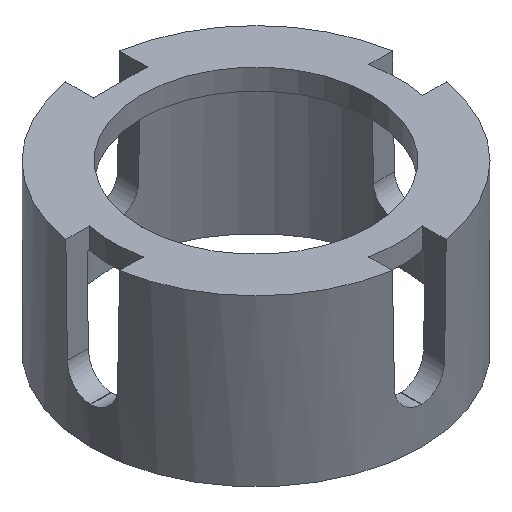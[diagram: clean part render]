
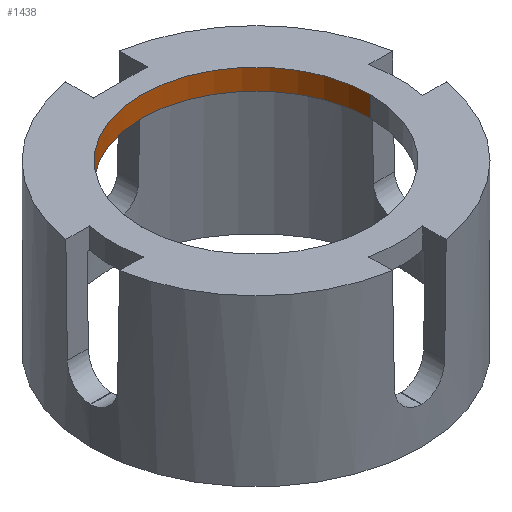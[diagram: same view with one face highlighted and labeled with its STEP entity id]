
A CAD part, isometric view. The second image highlights one B-rep face of the part: STEP entity #1438.
In plain terms, the highlighted cylindrical face has radius 13.85 mm (diameter 27.7 mm), a partial arc.
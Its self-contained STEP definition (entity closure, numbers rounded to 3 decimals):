
#13 = CARTESIAN_POINT ( 'NONE',  ( 13.85, 0., 0. ) ) ;
#101 = EDGE_LOOP ( 'NONE', ( #724, #1099, #424, #1149 ) ) ;
#134 = CARTESIAN_POINT ( 'NONE',  ( 13.85, 0., 2.5 ) ) ;
#155 = EDGE_CURVE ( 'NONE', #426, #623, #190, .T. ) ;
#190 = CIRCLE ( 'NONE', #710, 13.85 ) ;
#246 = VERTEX_POINT ( 'NONE', #534 ) ;
#393 = DIRECTION ( 'NONE',  ( 0., 0., -1. ) ) ;
#403 = VECTOR ( 'NONE', #1270, 1000. ) ;
#415 = CARTESIAN_POINT ( 'NONE',  ( -13.85, 0., 2.5 ) ) ;
#424 = ORIENTED_EDGE ( 'NONE', *, *, #518, .T. ) ;
#426 = VERTEX_POINT ( 'NONE', #559 ) ;
#457 = CIRCLE ( 'NONE', #848, 13.85 ) ;
#476 = CARTESIAN_POINT ( 'NONE',  ( 0., 0., 0. ) ) ;
#510 = DIRECTION ( 'NONE',  ( -1., 0., 0. ) ) ;
#518 = EDGE_CURVE ( 'NONE', #426, #246, #1536, .T. ) ;
#534 = CARTESIAN_POINT ( 'NONE',  ( -13.85, 0., 0. ) ) ;
#551 = CYLINDRICAL_SURFACE ( 'NONE', #697, 13.85 ) ;
#559 = CARTESIAN_POINT ( 'NONE',  ( -13.85, 0., 2.5 ) ) ;
#572 = DIRECTION ( 'NONE',  ( 0., 0., -1. ) ) ;
#589 = CARTESIAN_POINT ( 'NONE',  ( 0., 0., 2.5 ) ) ;
#623 = VERTEX_POINT ( 'NONE', #1246 ) ;
#697 = AXIS2_PLACEMENT_3D ( 'NONE', #589, #1497, #510 ) ;
#710 = AXIS2_PLACEMENT_3D ( 'NONE', #1112, #572, #928 ) ;
#724 = ORIENTED_EDGE ( 'NONE', *, *, #1433, .F. ) ;
#848 = AXIS2_PLACEMENT_3D ( 'NONE', #476, #989, #939 ) ;
#928 = DIRECTION ( 'NONE',  ( -1., 0., 0. ) ) ;
#939 = DIRECTION ( 'NONE',  ( -1., 0., 0. ) ) ;
#988 = FACE_OUTER_BOUND ( 'NONE', #101, .T. ) ;
#989 = DIRECTION ( 'NONE',  ( 0., 0., -1. ) ) ;
#1099 = ORIENTED_EDGE ( 'NONE', *, *, #155, .F. ) ;
#1112 = CARTESIAN_POINT ( 'NONE',  ( 0., 0., 2.5 ) ) ;
#1149 = ORIENTED_EDGE ( 'NONE', *, *, #1503, .T. ) ;
#1159 = LINE ( 'NONE', #134, #1160 ) ;
#1160 = VECTOR ( 'NONE', #393, 1000. ) ;
#1190 = VERTEX_POINT ( 'NONE', #13 ) ;
#1246 = CARTESIAN_POINT ( 'NONE',  ( 13.85, 0., 2.5 ) ) ;
#1270 = DIRECTION ( 'NONE',  ( 0., 0., -1. ) ) ;
#1433 = EDGE_CURVE ( 'NONE', #623, #1190, #1159, .T. ) ;
#1438 = ADVANCED_FACE ( 'NONE', ( #988 ), #551, .F. ) ;
#1497 = DIRECTION ( 'NONE',  ( 0., 0., -1. ) ) ;
#1503 = EDGE_CURVE ( 'NONE', #246, #1190, #457, .T. ) ;
#1536 = LINE ( 'NONE', #415, #403 ) ;
